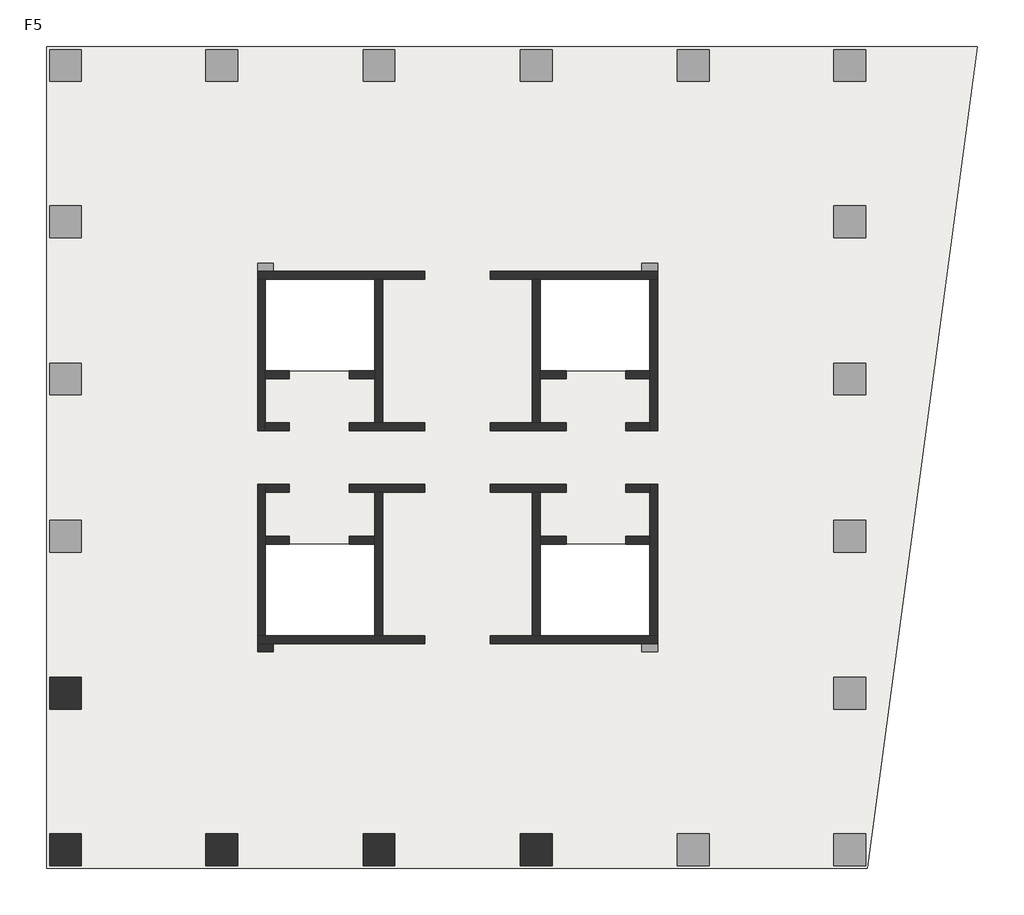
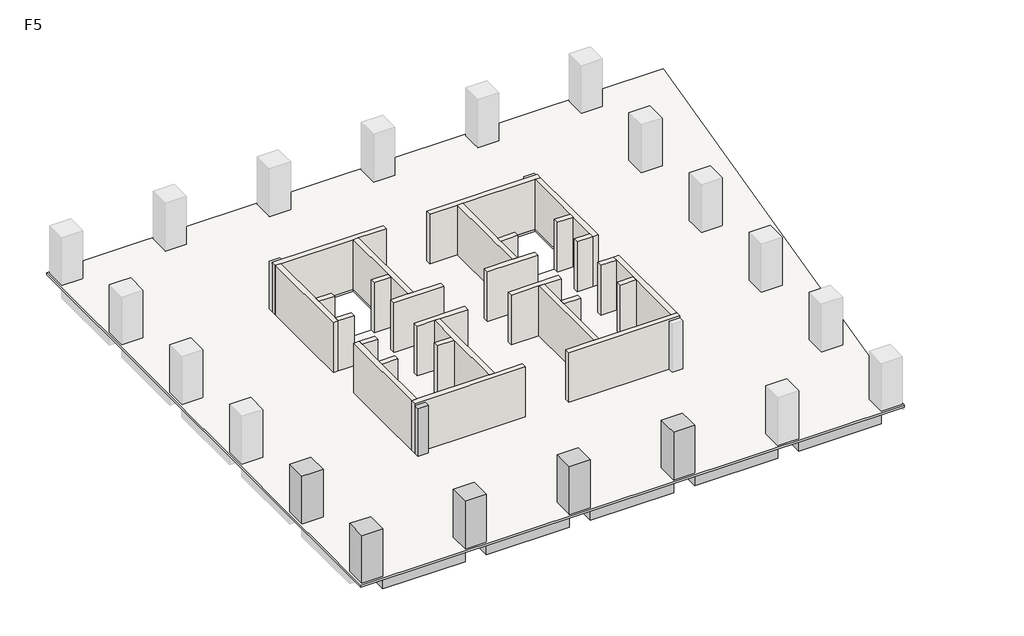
# One storey, part 1 of 2: 28 walls, 6 columns, 5 beams, 1 slab.
"""IFC4 building model written with IfcOpenShell, lengths in millimetres."""

from ifc_helpers import new_model, si_unit, frame, origin, place, context, project, spatial, polyline, outline, extrude, faceted_brep, element, save

model = new_model("IFC4")

# Units and contexts
model_context = context("Model", 3, world=origin())
ifc_project = project(units=[si_unit("LENGTHUNIT", "METRE", prefix="MILLI")], contexts=[model_context])

# Site, building, storey
site = spatial("IfcSite", under=ifc_project)
building = spatial("IfcBuilding", under=site)
storey = spatial("IfcBuildingStorey", under=building, Name="F5", Elevation=20000.0)

# Beams
placement = place(None, origin())
element("IfcBeam", 1, ObjectType="混凝土 - 矩形梁 : KL(5)-800x1000", at=placement, inside=storey, context=model_context, shape_type="SweptSolid", body=[
    extrude(outline(polyline([(-12472.6742169, -13948.9501342), (-12472.6742169, -13148.9501342), (-6222.6742169, -13148.9501342), (-6222.6742169, -13948.9501342), (-12472.6742169, -13948.9501342)])), frame((0.0, 0.0, 19000.0), z_axis=(0.0, 0.0, 1.0), x_axis=(1.0, 0.0, 0.0)), (0.0, 0.0, 1.0), 840.0),
    extrude(outline(polyline([(25327.3257831, -13148.9501342), (25327.3257831, -13948.9501342), (19077.3257831, -13948.9501342), (19077.3257831, -13148.9501342), (25327.3257831, -13148.9501342)])), frame((0.0, 0.0, 19000.0), z_axis=(0.0, 0.0, 1.0), x_axis=(1.0, 0.0, 0.0)), (0.0, 0.0, 1.0), 840.0),
    extrude(outline(polyline([(-4622.6742169, -13948.9501342), (-4622.6742169, -13148.9501342), (1677.3257831, -13148.9501342), (1677.3257831, -13948.9501342), (-4622.6742169, -13948.9501342)])), frame((0.0, 0.0, 19000.0), z_axis=(0.0, 0.0, 1.0), x_axis=(1.0, 0.0, 0.0)), (0.0, 0.0, 1.0), 840.0),
    extrude(outline(polyline([(3277.3257831, -13948.9501342), (3277.3257831, -13148.9501342), (9577.3257831, -13148.9501342), (9577.3257831, -13948.9501342), (3277.3257831, -13948.9501342)])), frame((0.0, 0.0, 19000.0), z_axis=(0.0, 0.0, 1.0), x_axis=(1.0, 0.0, 0.0)), (0.0, 0.0, 1.0), 840.0),
    extrude(outline(polyline([(11177.3257831, -13948.9501342), (11177.3257831, -13148.9501342), (17477.3257831, -13148.9501342), (17477.3257831, -13948.9501342), (11177.3257831, -13948.9501342)])), frame((0.0, 0.0, 19000.0), z_axis=(0.0, 0.0, 1.0), x_axis=(1.0, 0.0, 0.0)), (0.0, 0.0, 1.0), 840.0),
])
element("IfcBeam", 2, ObjectType="混凝土 - 矩形梁 : L1-800x500", at=placement, inside=storey, context=model_context, shape_type="Brep", body=[
    faceted_brep([(-12472.6742169, -5512.1353397, 19500.0), (-3746.9473979, -3341.556529, 19500.0), (-3173.6696907, -3198.9501342, 19500.0), (-3173.6696907, -3198.9501342, 19840.0), (-3746.9473979, -3341.556529, 19840.0), (-12472.6742169, -5512.1353397, 19840.0), (-3622.6742169, -3198.9501342, 19500.0), (-12472.6742169, -4687.7549784, 19500.0), (-3622.6742169, -2486.2624411, 19500.0), (-3622.6742169, -2798.9501342, 19500.0), (-12472.6742169, -4687.7549784, 19840.0), (-3622.6742169, -2486.2624411, 19840.0), (-3622.6742169, -3198.9501342, 19840.0)], [[[0, 1, 2, 3, 4, 5]], [[6, 2, 1, 0, 7, 8, 9]], [[8, 7, 10, 11]], [[2, 6, 12, 3]], [[9, 8, 11, 12, 6]], [[7, 0, 5, 10]], [[5, 4, 3, 12, 11, 10]]]),
])
element("IfcBeam", 3, ObjectType="混凝土 - 矩形梁 : L1-800x500", at=placement, inside=storey, context=model_context, shape_type="SweptSolid", body=[
    extrude(outline(polyline([(-3746.9473979, -3341.556529), (-3173.6696907, -3198.9501342), (-2898.7618154, -3198.9501342), (-4843.6893517, -12348.9501342), (-5661.5624638, -12348.9501342), (-3746.9473979, -3341.556529)])), frame((0.0, 0.0, 19500.0), z_axis=(0.0, 0.0, 1.0), x_axis=(1.0, 0.0, 0.0)), (0.0, 0.0, 1.0), 340.0),
])
element("IfcBeam", 4, ObjectType="混凝土 - 矩形梁 : L1-800x500", at=placement, inside=storey, context=model_context, shape_type="SweptSolid", body=[
    extrude(outline(polyline([(2877.3257831, -12348.9501342), (2077.3257831, -12348.9501342), (2077.3257831, -2798.9501342), (2877.3257831, -2798.9501342), (2877.3257831, -12348.9501342)])), frame((0.0, 0.0, 19500.0), z_axis=(0.0, 0.0, 1.0), x_axis=(1.0, 0.0, 0.0)), (0.0, 0.0, 1.0), 340.0),
])
element("IfcBeam", 5, ObjectType="混凝土 - 矩形梁 : L1-800x500", at=placement, inside=storey, context=model_context, shape_type="SweptSolid", body=[
    extrude(outline(polyline([(10777.3257831, -12348.9501342), (9977.3257831, -12348.9501342), (9977.3257831, -2798.9501342), (10777.3257831, -2798.9501342), (10777.3257831, -12348.9501342)])), frame((0.0, 0.0, 19500.0), z_axis=(0.0, 0.0, 1.0), x_axis=(1.0, 0.0, 0.0)), (0.0, 0.0, 1.0), 340.0),
])

# Columns
element("IfcColumn", 6, ObjectType="混凝土 - 矩形 - 柱 : Z1-1600x1600", at=placement, inside=storey, context=model_context, shape_type="Brep", body=[
    faceted_brep([(-12472.6742169, -4498.9501342, 20000.0), (-12472.6742169, -6098.9501342, 20000.0), (-14072.6742169, -6098.9501342, 20000.0), (-14072.6742169, -4498.9501342, 20000.0), (-12472.6742169, -4498.9501342, 23840.0), (-12472.6742169, -6098.9501342, 23840.0), (-13272.6742169, -6098.9501342, 23840.0), (-14072.6742169, -6098.9501342, 23840.0), (-14072.6742169, -6098.9501342, 23000.0), (-14072.6742169, -4498.9501342, 23840.0), (-14072.6742169, -4498.9501342, 23000.0), (-13272.6742169, -4498.9501342, 23840.0)], [[[0, 1, 2, 3]], [[1, 0, 4, 5]], [[2, 1, 5, 6, 7, 8]], [[3, 2, 8, 7, 9, 10]], [[0, 3, 10, 9, 11, 4]], [[5, 4, 11, 9, 7, 6]]]),
])
element("IfcColumn", 7, ObjectType="混凝土 - 矩形 - 柱 : Z1-1600x1600", at=placement, inside=storey, context=model_context, shape_type="SweptSolid", body=[
    extrude(outline(polyline([(-12472.6742169, -12348.9501342), (-12472.6742169, -13948.9501342), (-14072.6742169, -13948.9501342), (-14072.6742169, -12348.9501342), (-12472.6742169, -12348.9501342)])), frame((0.0, 0.0, 20000.0), z_axis=(0.0, 0.0, 1.0), x_axis=(1.0, 0.0, 0.0)), (0.0, 0.0, 1.0), 3840.0),
])
element("IfcColumn", 8, ObjectType="混凝土 - 矩形 - 柱 : Z1-1600x1600", at=placement, inside=storey, context=model_context, shape_type="Brep", body=[
    faceted_brep([(-4622.6742169, -12348.9501342, 20000.0), (-4622.6742169, -13948.9501342, 20000.0), (-6222.6742169, -13948.9501342, 20000.0), (-6222.6742169, -12348.9501342, 20000.0), (-4622.6742169, -12348.9501342, 23840.0), (-4622.6742169, -13148.9501342, 23840.0), (-4622.6742169, -13948.9501342, 23840.0), (-4622.6742169, -13948.9501342, 23000.0), (-6222.6742169, -13948.9501342, 23840.0), (-6222.6742169, -13948.9501342, 23000.0), (-6222.6742169, -13148.9501342, 23840.0), (-6222.6742169, -12348.9501342, 23840.0)], [[[0, 1, 2, 3]], [[1, 0, 4, 5, 6, 7]], [[2, 1, 7, 6, 8, 9]], [[3, 2, 9, 8, 10, 11]], [[0, 3, 11, 4]], [[6, 5, 4, 11, 10, 8]]]),
])
element("IfcColumn", 9, ObjectType="混凝土 - 矩形 - 柱 : Z1-1600x1600", at=placement, inside=storey, context=model_context, shape_type="Brep", body=[
    faceted_brep([(3277.3257831, -12348.9501342, 20000.0), (3277.3257831, -13948.9501342, 20000.0), (1677.3257831, -13948.9501342, 20000.0), (1677.3257831, -12348.9501342, 20000.0), (3277.3257831, -12348.9501342, 23840.0), (3277.3257831, -13148.9501342, 23840.0), (3277.3257831, -13948.9501342, 23840.0), (3277.3257831, -13948.9501342, 23000.0), (1677.3257831, -13948.9501342, 23840.0), (1677.3257831, -13948.9501342, 23000.0), (1677.3257831, -13148.9501342, 23840.0), (1677.3257831, -12348.9501342, 23840.0)], [[[0, 1, 2, 3]], [[1, 0, 4, 5, 6, 7]], [[2, 1, 7, 6, 8, 9]], [[3, 2, 9, 8, 10, 11]], [[0, 3, 11, 4]], [[6, 5, 4, 11, 10, 8]]]),
])
element("IfcColumn", 10, ObjectType="混凝土 - 矩形 - 柱 : Z1-1600x1600", at=placement, inside=storey, context=model_context, shape_type="Brep", body=[
    faceted_brep([(11177.3257831, -12348.9501342, 20000.0), (11177.3257831, -13948.9501342, 20000.0), (9577.3257831, -13948.9501342, 20000.0), (9577.3257831, -12348.9501342, 20000.0), (11177.3257831, -12348.9501342, 23840.0), (11177.3257831, -13148.9501342, 23840.0), (11177.3257831, -13948.9501342, 23840.0), (11177.3257831, -13948.9501342, 23000.0), (9577.3257831, -13948.9501342, 23840.0), (9577.3257831, -13948.9501342, 23000.0), (9577.3257831, -13148.9501342, 23840.0), (9577.3257831, -12348.9501342, 23840.0)], [[[0, 1, 2, 3]], [[1, 0, 4, 5, 6, 7]], [[2, 1, 7, 6, 8, 9]], [[3, 2, 9, 8, 10, 11]], [[0, 3, 11, 4]], [[6, 5, 4, 11, 10, 8]]]),
])
element("IfcColumn", 11, ObjectType="混凝土 - 矩形 - 柱 : Z2-800x800", at=placement, inside=storey, context=model_context, shape_type="SweptSolid", body=[
    extrude(outline(polyline([(-2822.6742169, -3198.9501342), (-3622.6742169, -3198.9501342), (-3622.6742169, -2798.9501342), (-2822.6742169, -2798.9501342), (-2822.6742169, -3198.9501342)])), frame((0.0, 0.0, 20000.0), z_axis=(0.0, 0.0, 1.0), x_axis=(1.0, 0.0, 0.0)), (0.0, 0.0, 1.0), 3840.0),
])

# Slab
element("IfcSlab", 12, ObjectType="LB-160", at=placement, inside=storey, context=model_context, shape_type="Brep", body=[
    faceted_brep([(32549.4477343, 27201.0498658, 19840.0), (32422.0087099, 26251.0498658, 19840.0), (27029.3257831, -13948.9501342, 19840.0), (27011.0393465, -14085.2672073, 19840.0), (-14222.6742169, -14085.2672073, 19840.0), (-14222.6742169, 27201.0498658, 19840.0), (2277.3257831, 15501.0498658, 19840.0), (-3222.6742169, 15501.0498658, 19840.0), (-3222.6742169, 10901.0498658, 19840.0), (2277.3257831, 10901.0498658, 19840.0), (2277.3257831, 2201.0498658, 19840.0), (-3222.6742169, 2201.0498658, 19840.0), (-3222.6742169, -2398.9501342, 19840.0), (2277.3257831, -2398.9501342, 19840.0), (16077.3257831, 2201.0498658, 19840.0), (10577.3257831, 2201.0498658, 19840.0), (10577.3257831, -2398.9501342, 19840.0), (16077.3257831, -2398.9501342, 19840.0), (16077.3257831, 15501.0498658, 19840.0), (10577.3257831, 15501.0498658, 19840.0), (10577.3257831, 10901.0498658, 19840.0), (16077.3257831, 10901.0498658, 19840.0), (32549.4477343, 27201.0498658, 20000.0), (-14222.6742169, 27201.0498658, 20000.0), (-14222.6742169, -14085.2672073, 20000.0), (27011.0393465, -14085.2672073, 20000.0), (2277.3257831, 15501.0498658, 20000.0), (2277.3257831, 10901.0498658, 20000.0), (-3222.6742169, 10901.0498658, 20000.0), (-3222.6742169, 15501.0498658, 20000.0), (2277.3257831, 2201.0498658, 20000.0), (2277.3257831, -2398.9501342, 20000.0), (-3222.6742169, -2398.9501342, 20000.0), (-3222.6742169, 2201.0498658, 20000.0), (16077.3257831, 2201.0498658, 20000.0), (16077.3257831, -2398.9501342, 20000.0), (10577.3257831, -2398.9501342, 20000.0), (10577.3257831, 2201.0498658, 20000.0), (16077.3257831, 15501.0498658, 20000.0), (16077.3257831, 10901.0498658, 20000.0), (10577.3257831, 10901.0498658, 20000.0), (10577.3257831, 15501.0498658, 20000.0)], [[[0, 1, 2, 3, 4, 5], [6, 7, 8, 9], [10, 11, 12, 13], [14, 15, 16, 17], [18, 19, 20, 21]], [[22, 23, 24, 25], [26, 27, 28, 29], [30, 31, 32, 33], [34, 35, 36, 37], [38, 39, 40, 41]], [[3, 2, 1, 0, 22, 25]], [[4, 3, 25, 24]], [[5, 4, 24, 23]], [[0, 5, 23, 22]], [[7, 6, 26, 29]], [[8, 7, 29, 28]], [[9, 8, 28, 27]], [[6, 9, 27, 26]], [[11, 10, 30, 33]], [[12, 11, 33, 32]], [[13, 12, 32, 31]], [[10, 13, 31, 30]], [[15, 14, 34, 37]], [[16, 15, 37, 36]], [[17, 16, 36, 35]], [[14, 17, 35, 34]], [[19, 18, 38, 41]], [[20, 19, 41, 40]], [[21, 20, 40, 39]], [[18, 21, 39, 38]]]),
])

# Walls
element("IfcWall", 13, ObjectType="剪力墙-400", at=placement, inside=storey, context=model_context, shape_type="Brep", body=[
    faceted_brep([(-3622.6742169, 15501.0498658, 20000.0), (-3222.6742169, 15501.0498658, 20000.0), (2277.3257831, 15501.0498658, 20000.0), (2677.3257831, 15501.0498658, 20000.0), (4777.3257831, 15501.0498658, 20000.0), (4777.3257831, 15501.0498658, 24000.0), (2677.3257831, 15501.0498658, 24000.0), (2277.3257831, 15501.0498658, 24000.0), (-3222.6742169, 15501.0498658, 24000.0), (-3622.6742169, 15501.0498658, 24000.0), (-3622.6742169, 15901.0498658, 20000.0), (-3622.6742169, 15901.0498658, 23840.0), (-3622.6742169, 15901.0498658, 24000.0), (4777.3257831, 15901.0498658, 24000.0), (4777.3257831, 15901.0498658, 20000.0), (-2822.6742169, 15901.0498658, 20000.0)], [[[0, 1, 2, 3, 4, 5, 6, 7, 8, 9]], [[10, 11, 12, 13, 14, 15]], [[4, 3, 2, 1, 0, 10, 15, 14]], [[5, 4, 14, 13]], [[9, 8, 7, 6, 5, 13, 12]], [[0, 9, 12, 11, 10]]]),
])
element("IfcWall", 14, ObjectType="剪力墙-400", at=placement, inside=storey, context=model_context, shape_type="Brep", body=[
    faceted_brep([(2277.3257831, 15501.0498658, 20000.0), (2277.3257831, 10901.0498658, 20000.0), (2277.3257831, 10501.0498658, 20000.0), (2277.3257831, 8301.0498658, 20000.0), (2277.3257831, 8301.0498658, 24000.0), (2277.3257831, 10501.0498658, 24000.0), (2277.3257831, 10901.0498658, 24000.0), (2277.3257831, 15501.0498658, 24000.0), (2677.3257831, 15501.0498658, 20000.0), (2677.3257831, 15501.0498658, 24000.0), (2677.3257831, 8301.0498658, 24000.0), (2677.3257831, 8301.0498658, 20000.0)], [[[0, 1, 2, 3, 4, 5, 6, 7]], [[8, 9, 10, 11]], [[3, 2, 1, 0, 8, 11]], [[7, 6, 5, 4, 10, 9]], [[0, 7, 9, 8]], [[4, 3, 11, 10]]]),
])
element("IfcWall", 15, ObjectType="剪力墙-400", at=placement, inside=storey, context=model_context, shape_type="Brep", body=[
    faceted_brep([(-3622.6742169, 15501.0498658, 20000.0), (-3622.6742169, 7901.0498658, 20000.0), (-3622.6742169, 7901.0498658, 24000.0), (-3622.6742169, 15501.0498658, 24000.0), (-3222.6742169, 15501.0498658, 20000.0), (-3222.6742169, 15501.0498658, 24000.0), (-3222.6742169, 10901.0498658, 24000.0), (-3222.6742169, 10501.0498658, 24000.0), (-3222.6742169, 8301.0498658, 24000.0), (-3222.6742169, 7901.0498658, 24000.0), (-3222.6742169, 7901.0498658, 20000.0), (-3222.6742169, 8301.0498658, 20000.0), (-3222.6742169, 10501.0498658, 20000.0), (-3222.6742169, 10901.0498658, 20000.0)], [[[0, 1, 2, 3]], [[4, 5, 6, 7, 8, 9, 10, 11, 12, 13]], [[1, 0, 4, 13, 12, 11, 10]], [[3, 2, 9, 8, 7, 6, 5]], [[0, 3, 5, 4]], [[2, 1, 10, 9]]]),
])
element("IfcWall", 16, ObjectType="剪力墙-400", at=placement, inside=storey, context=model_context, shape_type="SweptSolid", body=[
    extrude(outline(polyline([(-2022.6742169, 7901.0498658), (-3222.6742169, 7901.0498658), (-3222.6742169, 8301.0498658), (-2022.6742169, 8301.0498658), (-2022.6742169, 7901.0498658)])), frame((0.0, 0.0, 20000.0), z_axis=(0.0, 0.0, 1.0), x_axis=(1.0, 0.0, 0.0)), (0.0, 0.0, 1.0), 4000.0),
])
element("IfcWall", 17, ObjectType="剪力墙-400", at=placement, inside=storey, context=model_context, shape_type="Brep", body=[
    faceted_brep([(977.3257831, 7901.0498658, 20000.0), (4777.3257831, 7901.0498658, 20000.0), (4777.3257831, 7901.0498658, 24000.0), (977.3257831, 7901.0498658, 24000.0), (977.3257831, 8301.0498658, 20000.0), (977.3257831, 8301.0498658, 24000.0), (2277.3257831, 8301.0498658, 24000.0), (2677.3257831, 8301.0498658, 24000.0), (4777.3257831, 8301.0498658, 24000.0), (4777.3257831, 8301.0498658, 20000.0), (2677.3257831, 8301.0498658, 20000.0), (2277.3257831, 8301.0498658, 20000.0)], [[[0, 1, 2, 3]], [[4, 5, 6, 7, 8, 9, 10, 11]], [[1, 0, 4, 11, 10, 9]], [[2, 1, 9, 8]], [[3, 2, 8, 7, 6, 5]], [[0, 3, 5, 4]]]),
])
element("IfcWall", 18, ObjectType="剪力墙-400", at=placement, inside=storey, context=model_context, shape_type="SweptSolid", body=[
    extrude(outline(polyline([(-2022.6742169, 10501.0498658), (-3222.6742169, 10501.0498658), (-3222.6742169, 10901.0498658), (-2022.6742169, 10901.0498658), (-2022.6742169, 10501.0498658)])), frame((0.0, 0.0, 20000.0), z_axis=(0.0, 0.0, 1.0), x_axis=(1.0, 0.0, 0.0)), (0.0, 0.0, 1.0), 4000.0),
])
element("IfcWall", 19, ObjectType="剪力墙-400", at=placement, inside=storey, context=model_context, shape_type="SweptSolid", body=[
    extrude(outline(polyline([(2277.3257831, 10501.0498658), (977.3257831, 10501.0498658), (977.3257831, 10901.0498658), (2277.3257831, 10901.0498658), (2277.3257831, 10501.0498658)])), frame((0.0, 0.0, 20000.0), z_axis=(0.0, 0.0, 1.0), x_axis=(1.0, 0.0, 0.0)), (0.0, 0.0, 1.0), 4000.0),
])
element("IfcWall", 20, ObjectType="剪力墙-400", at=placement, inside=storey, context=model_context, shape_type="Brep", body=[
    faceted_brep([(16477.3257831, 15901.0498658, 20000.0), (15677.3257831, 15901.0498658, 20000.0), (8077.3257831, 15901.0498658, 20000.0), (8077.3257831, 15901.0498658, 24000.0), (16477.3257831, 15901.0498658, 24000.0), (16477.3257831, 15901.0498658, 23840.0), (16477.3257831, 15501.0498658, 20000.0), (16477.3257831, 15501.0498658, 24000.0), (16077.3257831, 15501.0498658, 24000.0), (10577.3257831, 15501.0498658, 24000.0), (10177.3257831, 15501.0498658, 24000.0), (8077.3257831, 15501.0498658, 24000.0), (8077.3257831, 15501.0498658, 20000.0), (10177.3257831, 15501.0498658, 20000.0), (10577.3257831, 15501.0498658, 20000.0), (16077.3257831, 15501.0498658, 20000.0)], [[[0, 1, 2, 3, 4, 5]], [[6, 7, 8, 9, 10, 11, 12, 13, 14, 15]], [[2, 1, 0, 6, 15, 14, 13, 12]], [[3, 2, 12, 11]], [[4, 3, 11, 10, 9, 8, 7]], [[0, 5, 4, 7, 6]]]),
])
element("IfcWall", 21, ObjectType="剪力墙-400", at=placement, inside=storey, context=model_context, shape_type="Brep", body=[
    faceted_brep([(10177.3257831, 15501.0498658, 20000.0), (10177.3257831, 8301.0498658, 20000.0), (10177.3257831, 8301.0498658, 24000.0), (10177.3257831, 15501.0498658, 24000.0), (10577.3257831, 15501.0498658, 20000.0), (10577.3257831, 15501.0498658, 24000.0), (10577.3257831, 10901.0498658, 24000.0), (10577.3257831, 10501.0498658, 24000.0), (10577.3257831, 8301.0498658, 24000.0), (10577.3257831, 8301.0498658, 20000.0), (10577.3257831, 10501.0498658, 20000.0), (10577.3257831, 10901.0498658, 20000.0)], [[[0, 1, 2, 3]], [[4, 5, 6, 7, 8, 9, 10, 11]], [[1, 0, 4, 11, 10, 9]], [[3, 2, 8, 7, 6, 5]], [[0, 3, 5, 4]], [[2, 1, 9, 8]]]),
])
element("IfcWall", 22, ObjectType="剪力墙-400", at=placement, inside=storey, context=model_context, shape_type="Brep", body=[
    faceted_brep([(16077.3257831, 15501.0498658, 20000.0), (16077.3257831, 10901.0498658, 20000.0), (16077.3257831, 10501.0498658, 20000.0), (16077.3257831, 8301.0498658, 20000.0), (16077.3257831, 7901.0498658, 20000.0), (16077.3257831, 7901.0498658, 24000.0), (16077.3257831, 8301.0498658, 24000.0), (16077.3257831, 10501.0498658, 24000.0), (16077.3257831, 10901.0498658, 24000.0), (16077.3257831, 15501.0498658, 24000.0), (16477.3257831, 15501.0498658, 20000.0), (16477.3257831, 15501.0498658, 24000.0), (16477.3257831, 7901.0498658, 24000.0), (16477.3257831, 7901.0498658, 20000.0)], [[[0, 1, 2, 3, 4, 5, 6, 7, 8, 9]], [[10, 11, 12, 13]], [[4, 3, 2, 1, 0, 10, 13]], [[9, 8, 7, 6, 5, 12, 11]], [[0, 9, 11, 10]], [[5, 4, 13, 12]]]),
])
element("IfcWall", 23, ObjectType="剪力墙-400", at=placement, inside=storey, context=model_context, shape_type="SweptSolid", body=[
    extrude(outline(polyline([(14877.3257831, 8301.0498658), (16077.3257831, 8301.0498658), (16077.3257831, 7901.0498658), (14877.3257831, 7901.0498658), (14877.3257831, 8301.0498658)])), frame((0.0, 0.0, 20000.0), z_axis=(0.0, 0.0, 1.0), x_axis=(1.0, 0.0, 0.0)), (0.0, 0.0, 1.0), 4000.0),
])
element("IfcWall", 24, ObjectType="剪力墙-400", at=placement, inside=storey, context=model_context, shape_type="Brep", body=[
    faceted_brep([(11877.3257831, 8301.0498658, 20000.0), (10577.3257831, 8301.0498658, 20000.0), (10177.3257831, 8301.0498658, 20000.0), (8077.3257831, 8301.0498658, 20000.0), (8077.3257831, 8301.0498658, 24000.0), (10177.3257831, 8301.0498658, 24000.0), (10577.3257831, 8301.0498658, 24000.0), (11877.3257831, 8301.0498658, 24000.0), (11877.3257831, 7901.0498658, 20000.0), (11877.3257831, 7901.0498658, 24000.0), (8077.3257831, 7901.0498658, 24000.0), (8077.3257831, 7901.0498658, 20000.0)], [[[0, 1, 2, 3, 4, 5, 6, 7]], [[8, 9, 10, 11]], [[3, 2, 1, 0, 8, 11]], [[4, 3, 11, 10]], [[7, 6, 5, 4, 10, 9]], [[0, 7, 9, 8]]]),
])
element("IfcWall", 25, ObjectType="剪力墙-400", at=placement, inside=storey, context=model_context, shape_type="SweptSolid", body=[
    extrude(outline(polyline([(14877.3257831, 10901.0498658), (16077.3257831, 10901.0498658), (16077.3257831, 10501.0498658), (14877.3257831, 10501.0498658), (14877.3257831, 10901.0498658)])), frame((0.0, 0.0, 20000.0), z_axis=(0.0, 0.0, 1.0), x_axis=(1.0, 0.0, 0.0)), (0.0, 0.0, 1.0), 4000.0),
])
element("IfcWall", 26, ObjectType="剪力墙-400", at=placement, inside=storey, context=model_context, shape_type="SweptSolid", body=[
    extrude(outline(polyline([(10577.3257831, 10901.0498658), (11877.3257831, 10901.0498658), (11877.3257831, 10501.0498658), (10577.3257831, 10501.0498658), (10577.3257831, 10901.0498658)])), frame((0.0, 0.0, 20000.0), z_axis=(0.0, 0.0, 1.0), x_axis=(1.0, 0.0, 0.0)), (0.0, 0.0, 1.0), 4000.0),
])
element("IfcWall", 27, ObjectType="剪力墙-400", at=placement, inside=storey, context=model_context, shape_type="Brep", body=[
    faceted_brep([(-3622.6742169, -2798.9501342, 20000.0), (-2822.6742169, -2798.9501342, 20000.0), (4777.3257831, -2798.9501342, 20000.0), (4777.3257831, -2798.9501342, 24000.0), (-3622.6742169, -2798.9501342, 24000.0), (-3622.6742169, -2798.9501342, 23840.0), (-3622.6742169, -2398.9501342, 20000.0), (-3622.6742169, -2398.9501342, 24000.0), (-3222.6742169, -2398.9501342, 24000.0), (2277.3257831, -2398.9501342, 24000.0), (2677.3257831, -2398.9501342, 24000.0), (4777.3257831, -2398.9501342, 24000.0), (4777.3257831, -2398.9501342, 20000.0), (2677.3257831, -2398.9501342, 20000.0), (2277.3257831, -2398.9501342, 20000.0), (-3222.6742169, -2398.9501342, 20000.0)], [[[0, 1, 2, 3, 4, 5]], [[6, 7, 8, 9, 10, 11, 12, 13, 14, 15]], [[2, 1, 0, 6, 15, 14, 13, 12]], [[3, 2, 12, 11]], [[4, 3, 11, 10, 9, 8, 7]], [[0, 5, 4, 7, 6]]]),
])
element("IfcWall", 28, ObjectType="剪力墙-400", at=placement, inside=storey, context=model_context, shape_type="Brep", body=[
    faceted_brep([(2677.3257831, -2398.9501342, 20000.0), (2677.3257831, 4801.0498658, 20000.0), (2677.3257831, 4801.0498658, 24000.0), (2677.3257831, -2398.9501342, 24000.0), (2277.3257831, -2398.9501342, 20000.0), (2277.3257831, -2398.9501342, 24000.0), (2277.3257831, 2201.0498658, 24000.0), (2277.3257831, 2601.0498658, 24000.0), (2277.3257831, 4801.0498658, 24000.0), (2277.3257831, 4801.0498658, 20000.0), (2277.3257831, 2601.0498658, 20000.0), (2277.3257831, 2201.0498658, 20000.0)], [[[0, 1, 2, 3]], [[4, 5, 6, 7, 8, 9, 10, 11]], [[1, 0, 4, 11, 10, 9]], [[3, 2, 8, 7, 6, 5]], [[0, 3, 5, 4]], [[2, 1, 9, 8]]]),
])
element("IfcWall", 29, ObjectType="剪力墙-400", at=placement, inside=storey, context=model_context, shape_type="Brep", body=[
    faceted_brep([(-3222.6742169, -2398.9501342, 20000.0), (-3222.6742169, 2201.0498658, 20000.0), (-3222.6742169, 2601.0498658, 20000.0), (-3222.6742169, 4801.0498658, 20000.0), (-3222.6742169, 5201.0498658, 20000.0), (-3222.6742169, 5201.0498658, 24000.0), (-3222.6742169, 4801.0498658, 24000.0), (-3222.6742169, 2601.0498658, 24000.0), (-3222.6742169, 2201.0498658, 24000.0), (-3222.6742169, -2398.9501342, 24000.0), (-3622.6742169, -2398.9501342, 20000.0), (-3622.6742169, -2398.9501342, 24000.0), (-3622.6742169, 5201.0498658, 24000.0), (-3622.6742169, 5201.0498658, 20000.0)], [[[0, 1, 2, 3, 4, 5, 6, 7, 8, 9]], [[10, 11, 12, 13]], [[4, 3, 2, 1, 0, 10, 13]], [[9, 8, 7, 6, 5, 12, 11]], [[0, 9, 11, 10]], [[5, 4, 13, 12]]]),
])
element("IfcWall", 30, ObjectType="剪力墙-400", at=placement, inside=storey, context=model_context, shape_type="SweptSolid", body=[
    extrude(outline(polyline([(-2022.6742169, 4801.0498658), (-3222.6742169, 4801.0498658), (-3222.6742169, 5201.0498658), (-2022.6742169, 5201.0498658), (-2022.6742169, 4801.0498658)])), frame((0.0, 0.0, 20000.0), z_axis=(0.0, 0.0, 1.0), x_axis=(1.0, 0.0, 0.0)), (0.0, 0.0, 1.0), 4000.0),
])
element("IfcWall", 31, ObjectType="剪力墙-400", at=placement, inside=storey, context=model_context, shape_type="Brep", body=[
    faceted_brep([(977.3257831, 4801.0498658, 20000.0), (2277.3257831, 4801.0498658, 20000.0), (2677.3257831, 4801.0498658, 20000.0), (4777.3257831, 4801.0498658, 20000.0), (4777.3257831, 4801.0498658, 24000.0), (2677.3257831, 4801.0498658, 24000.0), (2277.3257831, 4801.0498658, 24000.0), (977.3257831, 4801.0498658, 24000.0), (977.3257831, 5201.0498658, 20000.0), (977.3257831, 5201.0498658, 24000.0), (4777.3257831, 5201.0498658, 24000.0), (4777.3257831, 5201.0498658, 20000.0)], [[[0, 1, 2, 3, 4, 5, 6, 7]], [[8, 9, 10, 11]], [[3, 2, 1, 0, 8, 11]], [[4, 3, 11, 10]], [[7, 6, 5, 4, 10, 9]], [[0, 7, 9, 8]]]),
])
element("IfcWall", 32, ObjectType="剪力墙-400", at=placement, inside=storey, context=model_context, shape_type="SweptSolid", body=[
    extrude(outline(polyline([(-2022.6742169, 2201.0498658), (-3222.6742169, 2201.0498658), (-3222.6742169, 2601.0498658), (-2022.6742169, 2601.0498658), (-2022.6742169, 2201.0498658)])), frame((0.0, 0.0, 20000.0), z_axis=(0.0, 0.0, 1.0), x_axis=(1.0, 0.0, 0.0)), (0.0, 0.0, 1.0), 4000.0),
])
element("IfcWall", 33, ObjectType="剪力墙-400", at=placement, inside=storey, context=model_context, shape_type="SweptSolid", body=[
    extrude(outline(polyline([(2277.3257831, 2201.0498658), (977.3257831, 2201.0498658), (977.3257831, 2601.0498658), (2277.3257831, 2601.0498658), (2277.3257831, 2201.0498658)])), frame((0.0, 0.0, 20000.0), z_axis=(0.0, 0.0, 1.0), x_axis=(1.0, 0.0, 0.0)), (0.0, 0.0, 1.0), 4000.0),
])
element("IfcWall", 34, ObjectType="剪力墙-400", at=placement, inside=storey, context=model_context, shape_type="Brep", body=[
    faceted_brep([(16477.3257831, -2398.9501342, 20000.0), (16077.3257831, -2398.9501342, 20000.0), (10577.3257831, -2398.9501342, 20000.0), (10177.3257831, -2398.9501342, 20000.0), (8077.3257831, -2398.9501342, 20000.0), (8077.3257831, -2398.9501342, 24000.0), (10177.3257831, -2398.9501342, 24000.0), (10577.3257831, -2398.9501342, 24000.0), (16077.3257831, -2398.9501342, 24000.0), (16477.3257831, -2398.9501342, 24000.0), (16477.3257831, -2798.9501342, 20000.0), (16477.3257831, -2798.9501342, 23840.0), (16477.3257831, -2798.9501342, 24000.0), (8077.3257831, -2798.9501342, 24000.0), (8077.3257831, -2798.9501342, 20000.0), (15677.3257831, -2798.9501342, 20000.0)], [[[0, 1, 2, 3, 4, 5, 6, 7, 8, 9]], [[10, 11, 12, 13, 14, 15]], [[4, 3, 2, 1, 0, 10, 15, 14]], [[5, 4, 14, 13]], [[9, 8, 7, 6, 5, 13, 12]], [[0, 9, 12, 11, 10]]]),
])
element("IfcWall", 35, ObjectType="剪力墙-400", at=placement, inside=storey, context=model_context, shape_type="Brep", body=[
    faceted_brep([(10577.3257831, -2398.9501342, 20000.0), (10577.3257831, 2201.0498658, 20000.0), (10577.3257831, 2601.0498658, 20000.0), (10577.3257831, 4801.0498658, 20000.0), (10577.3257831, 4801.0498658, 24000.0), (10577.3257831, 2601.0498658, 24000.0), (10577.3257831, 2201.0498658, 24000.0), (10577.3257831, -2398.9501342, 24000.0), (10177.3257831, -2398.9501342, 20000.0), (10177.3257831, -2398.9501342, 24000.0), (10177.3257831, 4801.0498658, 24000.0), (10177.3257831, 4801.0498658, 20000.0)], [[[0, 1, 2, 3, 4, 5, 6, 7]], [[8, 9, 10, 11]], [[3, 2, 1, 0, 8, 11]], [[7, 6, 5, 4, 10, 9]], [[0, 7, 9, 8]], [[4, 3, 11, 10]]]),
])
element("IfcWall", 36, ObjectType="剪力墙-400", at=placement, inside=storey, context=model_context, shape_type="Brep", body=[
    faceted_brep([(16477.3257831, -2398.9501342, 20000.0), (16477.3257831, 5201.0498658, 20000.0), (16477.3257831, 5201.0498658, 24000.0), (16477.3257831, -2398.9501342, 24000.0), (16077.3257831, -2398.9501342, 20000.0), (16077.3257831, -2398.9501342, 24000.0), (16077.3257831, 2201.0498658, 24000.0), (16077.3257831, 2601.0498658, 24000.0), (16077.3257831, 4801.0498658, 24000.0), (16077.3257831, 5201.0498658, 24000.0), (16077.3257831, 5201.0498658, 20000.0), (16077.3257831, 4801.0498658, 20000.0), (16077.3257831, 2601.0498658, 20000.0), (16077.3257831, 2201.0498658, 20000.0)], [[[0, 1, 2, 3]], [[4, 5, 6, 7, 8, 9, 10, 11, 12, 13]], [[1, 0, 4, 13, 12, 11, 10]], [[3, 2, 9, 8, 7, 6, 5]], [[0, 3, 5, 4]], [[2, 1, 10, 9]]]),
])
element("IfcWall", 37, ObjectType="剪力墙-400", at=placement, inside=storey, context=model_context, shape_type="SweptSolid", body=[
    extrude(outline(polyline([(14877.3257831, 5201.0498658), (16077.3257831, 5201.0498658), (16077.3257831, 4801.0498658), (14877.3257831, 4801.0498658), (14877.3257831, 5201.0498658)])), frame((0.0, 0.0, 20000.0), z_axis=(0.0, 0.0, 1.0), x_axis=(1.0, 0.0, 0.0)), (0.0, 0.0, 1.0), 4000.0),
])
element("IfcWall", 38, ObjectType="剪力墙-400", at=placement, inside=storey, context=model_context, shape_type="Brep", body=[
    faceted_brep([(11877.3257831, 5201.0498658, 20000.0), (8077.3257831, 5201.0498658, 20000.0), (8077.3257831, 5201.0498658, 24000.0), (11877.3257831, 5201.0498658, 24000.0), (11877.3257831, 4801.0498658, 20000.0), (11877.3257831, 4801.0498658, 24000.0), (10577.3257831, 4801.0498658, 24000.0), (10177.3257831, 4801.0498658, 24000.0), (8077.3257831, 4801.0498658, 24000.0), (8077.3257831, 4801.0498658, 20000.0), (10177.3257831, 4801.0498658, 20000.0), (10577.3257831, 4801.0498658, 20000.0)], [[[0, 1, 2, 3]], [[4, 5, 6, 7, 8, 9, 10, 11]], [[1, 0, 4, 11, 10, 9]], [[2, 1, 9, 8]], [[3, 2, 8, 7, 6, 5]], [[0, 3, 5, 4]]]),
])
element("IfcWall", 39, ObjectType="剪力墙-400", at=placement, inside=storey, context=model_context, shape_type="SweptSolid", body=[
    extrude(outline(polyline([(14877.3257831, 2601.0498658), (16077.3257831, 2601.0498658), (16077.3257831, 2201.0498658), (14877.3257831, 2201.0498658), (14877.3257831, 2601.0498658)])), frame((0.0, 0.0, 20000.0), z_axis=(0.0, 0.0, 1.0), x_axis=(1.0, 0.0, 0.0)), (0.0, 0.0, 1.0), 4000.0),
])
element("IfcWall", 40, ObjectType="剪力墙-400", at=placement, inside=storey, context=model_context, shape_type="SweptSolid", body=[
    extrude(outline(polyline([(10577.3257831, 2601.0498658), (11877.3257831, 2601.0498658), (11877.3257831, 2201.0498658), (10577.3257831, 2201.0498658), (10577.3257831, 2601.0498658)])), frame((0.0, 0.0, 20000.0), z_axis=(0.0, 0.0, 1.0), x_axis=(1.0, 0.0, 0.0)), (0.0, 0.0, 1.0), 4000.0),
])

save(model, "model.ifc")
